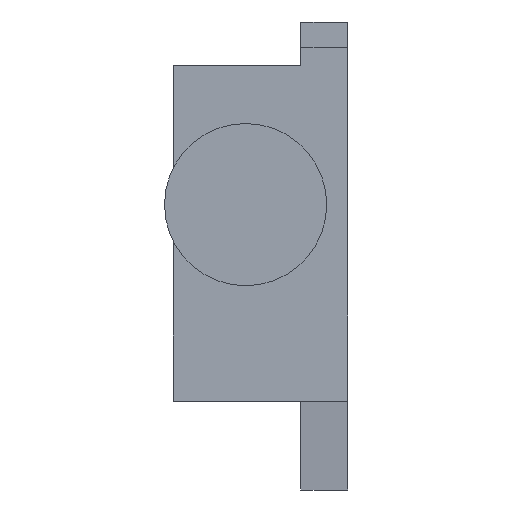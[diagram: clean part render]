
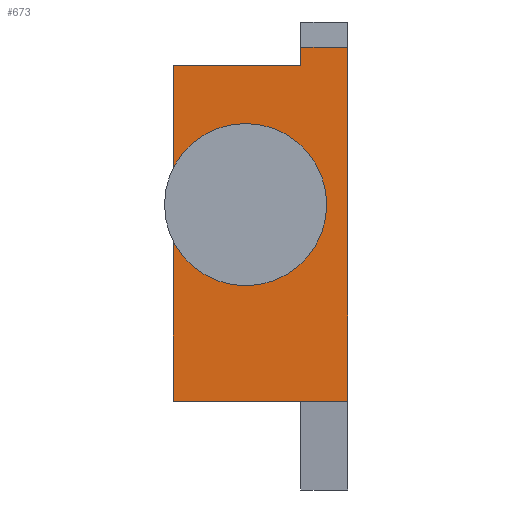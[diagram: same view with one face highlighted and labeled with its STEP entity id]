
A CAD part, left-side view. The second image highlights one B-rep face of the part: STEP entity #673.
In plain terms, the highlighted planar face has unit normal (-1, 0, 0).
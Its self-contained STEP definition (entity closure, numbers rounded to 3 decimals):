
#31 = EDGE_LOOP ( 'NONE', ( #284, #285, #286, #287, #288, #289 ) ) ;
#49 = EDGE_LOOP ( 'NONE', ( #290, #291 ) ) ;
#284 = ORIENTED_EDGE ( 'NONE', *, *, #806, .F. ) ;
#285 = ORIENTED_EDGE ( 'NONE', *, *, #805, .T. ) ;
#286 = ORIENTED_EDGE ( 'NONE', *, *, #803, .T. ) ;
#287 = ORIENTED_EDGE ( 'NONE', *, *, #807, .F. ) ;
#288 = ORIENTED_EDGE ( 'NONE', *, *, #804, .F. ) ;
#289 = ORIENTED_EDGE ( 'NONE', *, *, #802, .T. ) ;
#290 = ORIENTED_EDGE ( 'NONE', *, *, #794, .F. ) ;
#291 = ORIENTED_EDGE ( 'NONE', *, *, #705, .F. ) ;
#464 = FACE_BOUND ( 'NONE', #49, .T. ) ;
#471 = FACE_OUTER_BOUND ( 'NONE', #31, .T. ) ;
#525 = CIRCLE ( 'NONE', #1996, 5. ) ;
#673 = ADVANCED_FACE ( 'NONE', ( #471, #464 ), #1082, .F. ) ;
#705 = EDGE_CURVE ( 'NONE', #898, #899, #525, .T. ) ;
#794 = EDGE_CURVE ( 'NONE', #899, #898, #1791, .T. ) ;
#802 = EDGE_CURVE ( 'NONE', #971, #967, #1795, .T. ) ;
#803 = EDGE_CURVE ( 'NONE', #968, #969, #1789, .T. ) ;
#804 = EDGE_CURVE ( 'NONE', #971, #970, #1808, .T. ) ;
#805 = EDGE_CURVE ( 'NONE', #966, #968, #1803, .T. ) ;
#806 = EDGE_CURVE ( 'NONE', #966, #967, #1812, .T. ) ;
#807 = EDGE_CURVE ( 'NONE', #970, #969, #1805, .T. ) ;
#898 = VERTEX_POINT ( 'NONE', #1550 ) ;
#899 = VERTEX_POINT ( 'NONE', #1551 ) ;
#966 = VERTEX_POINT ( 'NONE', #1618 ) ;
#967 = VERTEX_POINT ( 'NONE', #1619 ) ;
#968 = VERTEX_POINT ( 'NONE', #1620 ) ;
#969 = VERTEX_POINT ( 'NONE', #1621 ) ;
#970 = VERTEX_POINT ( 'NONE', #1622 ) ;
#971 = VERTEX_POINT ( 'NONE', #1623 ) ;
#1070 = CARTESIAN_POINT ( 'NONE',  ( -849., 20.5, -28.541 ) ) ;
#1082 = PLANE ( 'NONE',  #1981 ) ;
#1083 = DIRECTION ( 'NONE',  ( 1., 0., 0. ) ) ;
#1084 = DIRECTION ( 'NONE',  ( 0., 0., 1. ) ) ;
#1166 = CARTESIAN_POINT ( 'NONE',  ( -849., 12., -5.4 ) ) ;
#1168 = DIRECTION ( 'NONE',  ( -1., 0., 0. ) ) ;
#1169 = DIRECTION ( 'NONE',  ( 0., 0., 1. ) ) ;
#1378 = CARTESIAN_POINT ( 'NONE',  ( -849., 12., -5.4 ) ) ;
#1379 = DIRECTION ( 'NONE',  ( -1., 0., 0. ) ) ;
#1380 = DIRECTION ( 'NONE',  ( 0., 0., 1. ) ) ;
#1395 = CARTESIAN_POINT ( 'NONE',  ( -849., 5.5, -28.541 ) ) ;
#1397 = CARTESIAN_POINT ( 'NONE',  ( -849., 20.5, -28.541 ) ) ;
#1398 = DIRECTION ( 'NONE',  ( 0., 0., -1. ) ) ;
#1399 = CARTESIAN_POINT ( 'NONE',  ( -849., 20.5, -28.541 ) ) ;
#1400 = DIRECTION ( 'NONE',  ( 0., -1., 0. ) ) ;
#1401 = CARTESIAN_POINT ( 'NONE',  ( -849., 5.5, 13.1 ) ) ;
#1402 = DIRECTION ( 'NONE',  ( 0., -1., 0. ) ) ;
#1403 = CARTESIAN_POINT ( 'NONE',  ( -849., 0., -28.541 ) ) ;
#1404 = DIRECTION ( 'NONE',  ( 0., 0., -1. ) ) ;
#1405 = CARTESIAN_POINT ( 'NONE',  ( -849., 20.5, 11. ) ) ;
#1406 = DIRECTION ( 'NONE',  ( 0., -1., 0. ) ) ;
#1408 = DIRECTION ( 'NONE',  ( 0., 0., -1. ) ) ;
#1550 = CARTESIAN_POINT ( 'NONE',  ( -849., 12., -10.4 ) ) ;
#1551 = CARTESIAN_POINT ( 'NONE',  ( -849., 12., -0.4 ) ) ;
#1618 = CARTESIAN_POINT ( 'NONE',  ( -849., 20.5, 11. ) ) ;
#1619 = CARTESIAN_POINT ( 'NONE',  ( -849., 5.5, 11. ) ) ;
#1620 = CARTESIAN_POINT ( 'NONE',  ( -849., 20.5, -28.541 ) ) ;
#1621 = CARTESIAN_POINT ( 'NONE',  ( -849., 0., -28.541 ) ) ;
#1622 = CARTESIAN_POINT ( 'NONE',  ( -849., 0., 13.1 ) ) ;
#1623 = CARTESIAN_POINT ( 'NONE',  ( -849., 5.5, 13.1 ) ) ;
#1789 = LINE ( 'NONE', #1397, #1806 ) ;
#1791 = CIRCLE ( 'NONE', #2028, 5. ) ;
#1795 = LINE ( 'NONE', #1395, #1804 ) ;
#1803 = LINE ( 'NONE', #1399, #1810 ) ;
#1804 = VECTOR ( 'NONE', #1398, 1000. ) ;
#1805 = LINE ( 'NONE', #1403, #1814 ) ;
#1806 = VECTOR ( 'NONE', #1400, 1000. ) ;
#1808 = LINE ( 'NONE', #1401, #1809 ) ;
#1809 = VECTOR ( 'NONE', #1402, 1000. ) ;
#1810 = VECTOR ( 'NONE', #1404, 1000. ) ;
#1812 = LINE ( 'NONE', #1405, #1813 ) ;
#1813 = VECTOR ( 'NONE', #1406, 1000. ) ;
#1814 = VECTOR ( 'NONE', #1408, 1000. ) ;
#1981 = AXIS2_PLACEMENT_3D ( 'NONE', #1070, #1083, #1084 ) ;
#1996 = AXIS2_PLACEMENT_3D ( 'NONE', #1166, #1168, #1169 ) ;
#2028 = AXIS2_PLACEMENT_3D ( 'NONE', #1378, #1379, #1380 ) ;
